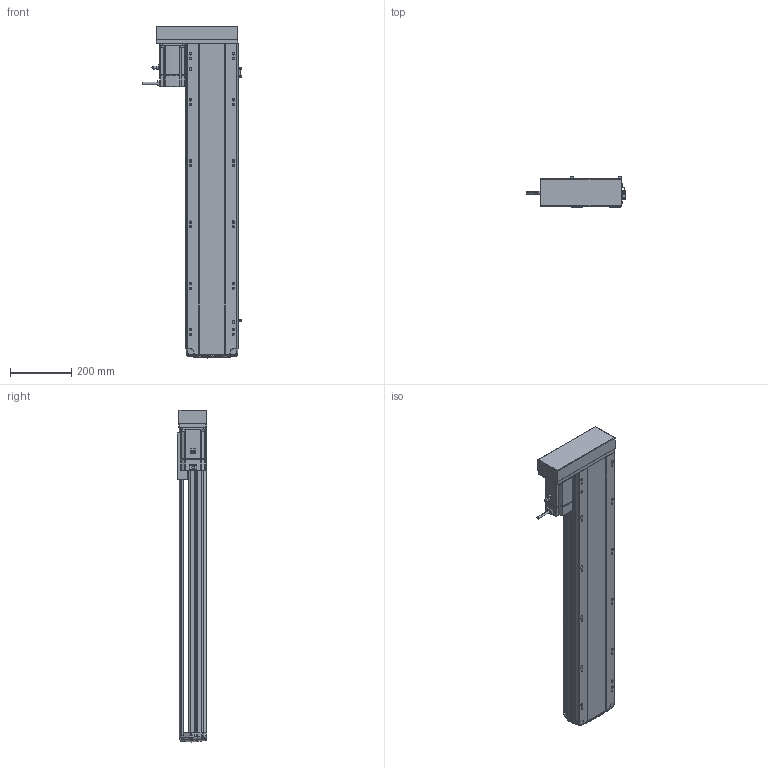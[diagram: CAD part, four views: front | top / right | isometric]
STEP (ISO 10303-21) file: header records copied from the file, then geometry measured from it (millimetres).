
FILE_DESCRIPTION (( 'STEP AP214' ), '1' );
FILE_NAME ('RTH17-XX-800-R-M75-C4.STEP', '2025-10-24T10:17:47', ( '' ), ( '' ), 'SwSTEP 2.0', 'SolidWorks 2018', '' );
FILE_SCHEMA (( 'AUTOMOTIVE_DESIGN' ));
Length unit declared in the file: millimetre
Products named in the file (10): N_RTH17-M-007上盖^RTH17-XX-XX-R-M75-C4（方程式）; N_RTH-L-012 感应片(外置)^RTH17-XX-XX-R-M75-C4（方程式）; N_RTH17-M-011底座^RTH17-XX-XX-R-M75-C4（方程式）; N_OMRON EE-SX672 換覜ん^RTH17-XX-XX-R-M75-C4ㄗ源最宒ㄘ; N_M75^RTH17-XX-XX-R-M75-C4（方程式）; N_RTH17-E-004丝杆螺母连接座^RTH17-XX-XX-R-M75-C4（方程式）; N_RTH17-L-008-P75电机安装板左转折^RTH17-XX-XX-R-M75-C4（方程式）; N_RTH17-GY-001P^RTH17-XX-XX-R-M75-C4（方程式）; RTH17-XX-800-R-M75-C4; N_RTH17-L-018盖子^RTH17-XX-XX-R-M75-C4（方程式）
Assembly tree (11 placements, depth 2):
  RTH17-XX-800-R-M75-C4
    N_RTH17-M-011底座^RTH17-XX-XX-R-M75-C4（方程式）
    N_RTH17-M-007上盖^RTH17-XX-XX-R-M75-C4（方程式）
    N_M75^RTH17-XX-XX-R-M75-C4（方程式）
    N_OMRON EE-SX672 換覜ん^RTH17-XX-XX-R-M75-C4ㄗ源最宒ㄘ  x3
    N_RTH-L-012 感应片(外置)^RTH17-XX-XX-R-M75-C4（方程式）
    N_RTH17-L-008-P75电机安装板左转折^RTH17-XX-XX-R-M75-C4（方程式）
    N_RTH17-L-018盖子^RTH17-XX-XX-R-M75-C4（方程式）
    N_RTH17-E-004丝杆螺母连接座^RTH17-XX-XX-R-M75-C4（方程式）
    N_RTH17-GY-001P^RTH17-XX-XX-R-M75-C4（方程式）
Bounding box: 326.2 x 97 x 1082.99 mm (x, y, z)
Volume: 9873385.7 mm3; surface area: 1237397.5 mm2
Topology: 13 solids, 15 shells, 1757 faces, 4835 edges, 3130 vertices
Faces by surface type: plane 833, cylinder 510, bspline 377, cone 28, torus 9
Entity records: 51269 total; most frequent: CARTESIAN_POINT 20495, ORIENTED_EDGE 6694, DIRECTION 5563, EDGE_CURVE 3351, VERTEX_POINT 2166, AXIS2_PLACEMENT_3D 1873, LINE 1817, VECTOR 1817
